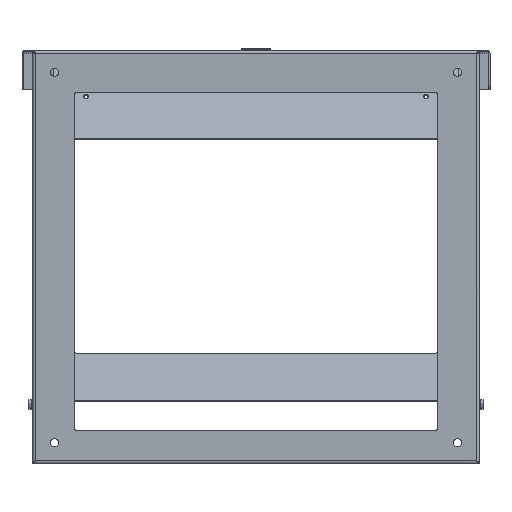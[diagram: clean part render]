
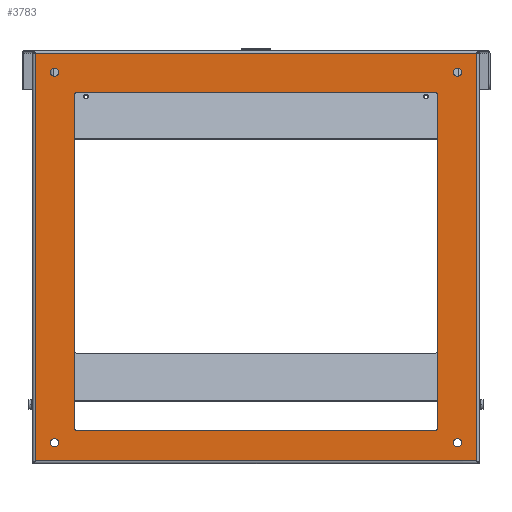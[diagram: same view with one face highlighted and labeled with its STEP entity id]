
A CAD part, front view. The second image highlights one B-rep face of the part: STEP entity #3783.
In plain terms, the highlighted planar face has unit normal (0, -1, 0).
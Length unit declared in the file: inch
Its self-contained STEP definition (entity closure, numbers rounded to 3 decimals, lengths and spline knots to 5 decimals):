
#120=DIRECTION('',(1.,0.,0.));
#121=VECTOR('',#120,16.9635);
#122=CARTESIAN_POINT('',(-8.48175,-0.85938,-7.84113));
#123=LINE('',#122,#121);
#127=CARTESIAN_POINT('',(8.48175,-0.85938,-7.84113));
#668=DIRECTION('',(-1.,0.,0.));
#669=VECTOR('',#668,13.8125);
#670=CARTESIAN_POINT('',(6.90625,-0.85938,6.32813));
#671=LINE('',#670,#669);
#675=DIRECTION('',(0.,0.,-1.));
#676=VECTOR('',#675,12.875);
#677=CARTESIAN_POINT('',(-6.96875,-0.85938,6.26563));
#678=LINE('',#677,#676);
#682=DIRECTION('',(1.,0.,0.));
#683=VECTOR('',#682,13.8125);
#684=CARTESIAN_POINT('',(-6.90625,-0.85938,-6.67188));
#685=LINE('',#684,#683);
#689=DIRECTION('',(0.,0.,1.));
#690=VECTOR('',#689,12.875);
#691=CARTESIAN_POINT('',(6.96875,-0.85938,-6.60938));
#692=LINE('',#691,#690);
#696=CARTESIAN_POINT('',(7.75,-0.85938,-7.14063));
#697=DIRECTION('',(0.,1.,0.));
#698=DIRECTION('',(1.,0.,0.));
#699=AXIS2_PLACEMENT_3D('',#696,#697,#698);
#704=CARTESIAN_POINT('',(7.75,-0.85938,-7.14063));
#705=DIRECTION('',(0.,1.,0.));
#706=DIRECTION('',(-1.,0.,0.));
#707=AXIS2_PLACEMENT_3D('',#704,#705,#706);
#712=CARTESIAN_POINT('',(-7.75,-0.85938,-7.14063));
#713=DIRECTION('',(0.,1.,0.));
#714=DIRECTION('',(1.,0.,0.));
#715=AXIS2_PLACEMENT_3D('',#712,#713,#714);
#720=CARTESIAN_POINT('',(-7.75,-0.85938,-7.14063));
#721=DIRECTION('',(0.,1.,0.));
#722=DIRECTION('',(-1.,0.,0.));
#723=AXIS2_PLACEMENT_3D('',#720,#721,#722);
#728=CARTESIAN_POINT('',(-7.75,-0.85938,7.10938));
#729=DIRECTION('',(0.,1.,0.));
#730=DIRECTION('',(1.,0.,0.));
#731=AXIS2_PLACEMENT_3D('',#728,#729,#730);
#736=CARTESIAN_POINT('',(-7.75,-0.85938,7.10938));
#737=DIRECTION('',(0.,1.,0.));
#738=DIRECTION('',(-1.,0.,0.));
#739=AXIS2_PLACEMENT_3D('',#736,#737,#738);
#744=CARTESIAN_POINT('',(7.75,-0.85938,7.10938));
#745=DIRECTION('',(0.,1.,0.));
#746=DIRECTION('',(1.,0.,0.));
#747=AXIS2_PLACEMENT_3D('',#744,#745,#746);
#752=CARTESIAN_POINT('',(7.75,-0.85938,7.10938));
#753=DIRECTION('',(0.,1.,0.));
#754=DIRECTION('',(-1.,0.,0.));
#755=AXIS2_PLACEMENT_3D('',#752,#753,#754);
#774=CARTESIAN_POINT('',(6.90625,-0.85938,6.26563));
#775=DIRECTION('',(0.,1.,0.));
#776=DIRECTION('',(0.,0.,1.));
#777=AXIS2_PLACEMENT_3D('',#774,#775,#776);
#804=CARTESIAN_POINT('',(6.90625,-0.85938,-6.60938));
#805=DIRECTION('',(0.,1.,0.));
#806=DIRECTION('',(1.,0.,0.));
#807=AXIS2_PLACEMENT_3D('',#804,#805,#806);
#834=CARTESIAN_POINT('',(-6.90625,-0.85938,-6.60938));
#835=DIRECTION('',(0.,1.,0.));
#836=DIRECTION('',(0.,0.,-1.));
#837=AXIS2_PLACEMENT_3D('',#834,#835,#836);
#850=CARTESIAN_POINT('',(-6.90625,-0.85938,6.26563));
#851=DIRECTION('',(0.,1.,0.));
#852=DIRECTION('',(-1.,0.,0.));
#853=AXIS2_PLACEMENT_3D('',#850,#851,#852);
#970=DIRECTION('',(0.,0.,1.));
#971=VECTOR('',#970,15.68225);
#972=CARTESIAN_POINT('',(-8.48175,-0.85938,-7.84113));
#973=LINE('',#972,#971);
#1175=DIRECTION('',(1.,0.,0.));
#1176=VECTOR('',#1175,16.9635);
#1177=CARTESIAN_POINT('',(-8.48175,-0.85938,7.84113));
#1178=LINE('',#1177,#1176);
#1182=CARTESIAN_POINT('',(-8.48175,-0.85938,7.84113));
#2103=DIRECTION('',(0.,0.,1.));
#2104=VECTOR('',#2103,15.68225);
#2105=CARTESIAN_POINT('',(8.48175,-0.85938,-7.84113));
#2106=LINE('',#2105,#2104);
#2704=VERTEX_POINT('',#1182);
#2710=CARTESIAN_POINT('',(8.48175,-0.85938,7.84113));
#2711=VERTEX_POINT('',#2710);
#2718=VERTEX_POINT('',#127);
#2724=CARTESIAN_POINT('',(-8.48175,-0.85938,-7.84113));
#2725=VERTEX_POINT('',#2724);
#2728=CARTESIAN_POINT('',(7.90625,-0.85938,-7.14063));
#2729=CARTESIAN_POINT('',(7.59375,-0.85938,-7.14063));
#2730=VERTEX_POINT('',#2728);
#2731=VERTEX_POINT('',#2729);
#2732=CARTESIAN_POINT('',(-7.59375,-0.85938,-7.14063));
#2733=CARTESIAN_POINT('',(-7.90625,-0.85938,-7.14063));
#2734=VERTEX_POINT('',#2732);
#2735=VERTEX_POINT('',#2733);
#2736=CARTESIAN_POINT('',(-7.59375,-0.85938,7.10938));
#2737=CARTESIAN_POINT('',(-7.90625,-0.85938,7.10938));
#2738=VERTEX_POINT('',#2736);
#2739=VERTEX_POINT('',#2737);
#2740=CARTESIAN_POINT('',(7.90625,-0.85938,7.10938));
#2741=CARTESIAN_POINT('',(7.59375,-0.85938,7.10938));
#2742=VERTEX_POINT('',#2740);
#2743=VERTEX_POINT('',#2741);
#2760=CARTESIAN_POINT('',(6.90625,-0.85938,6.32813));
#2761=CARTESIAN_POINT('',(-6.90625,-0.85938,6.32813));
#2762=VERTEX_POINT('',#2760);
#2763=VERTEX_POINT('',#2761);
#2764=CARTESIAN_POINT('',(-6.96875,-0.85938,6.26563));
#2765=CARTESIAN_POINT('',(-6.96875,-0.85938,-6.60938));
#2766=VERTEX_POINT('',#2764);
#2767=VERTEX_POINT('',#2765);
#2768=CARTESIAN_POINT('',(-6.90625,-0.85938,-6.67188));
#2769=CARTESIAN_POINT('',(6.90625,-0.85938,-6.67188));
#2770=VERTEX_POINT('',#2768);
#2771=VERTEX_POINT('',#2769);
#2772=CARTESIAN_POINT('',(6.96875,-0.85938,-6.60938));
#2773=CARTESIAN_POINT('',(6.96875,-0.85938,6.26563));
#2774=VERTEX_POINT('',#2772);
#2775=VERTEX_POINT('',#2773);
#3728=CARTESIAN_POINT('',(-8.59375,-0.85938,-7.95313));
#3729=DIRECTION('',(0.,-1.,0.));
#3730=DIRECTION('',(1.,0.,0.));
#3731=AXIS2_PLACEMENT_3D('',#3728,#3729,#3730);
#3732=PLANE('',#3731);
#3733=ORIENTED_EDGE('',*,*,#3216,.F.);
#3735=ORIENTED_EDGE('',*,*,#3734,.T.);
#3737=ORIENTED_EDGE('',*,*,#3736,.T.);
#3739=ORIENTED_EDGE('',*,*,#3738,.F.);
#3740=EDGE_LOOP('',(#3733,#3735,#3737,#3739));
#3741=FACE_OUTER_BOUND('',#3740,.F.);
#3743=ORIENTED_EDGE('',*,*,#3742,.F.);
#3745=ORIENTED_EDGE('',*,*,#3744,.F.);
#3746=EDGE_LOOP('',(#3743,#3745));
#3747=FACE_BOUND('',#3746,.F.);
#3749=ORIENTED_EDGE('',*,*,#3748,.F.);
#3751=ORIENTED_EDGE('',*,*,#3750,.F.);
#3752=EDGE_LOOP('',(#3749,#3751));
#3753=FACE_BOUND('',#3752,.F.);
#3755=ORIENTED_EDGE('',*,*,#3754,.F.);
#3757=ORIENTED_EDGE('',*,*,#3756,.F.);
#3758=EDGE_LOOP('',(#3755,#3757));
#3759=FACE_BOUND('',#3758,.F.);
#3761=ORIENTED_EDGE('',*,*,#3760,.F.);
#3763=ORIENTED_EDGE('',*,*,#3762,.F.);
#3764=EDGE_LOOP('',(#3761,#3763));
#3765=FACE_BOUND('',#3764,.F.);
#3767=ORIENTED_EDGE('',*,*,#3766,.T.);
#3769=ORIENTED_EDGE('',*,*,#3768,.F.);
#3770=ORIENTED_EDGE('',*,*,#3718,.T.);
#3772=ORIENTED_EDGE('',*,*,#3771,.F.);
#3774=ORIENTED_EDGE('',*,*,#3773,.T.);
#3776=ORIENTED_EDGE('',*,*,#3775,.F.);
#3778=ORIENTED_EDGE('',*,*,#3777,.T.);
#3780=ORIENTED_EDGE('',*,*,#3779,.F.);
#3781=EDGE_LOOP('',(#3767,#3769,#3770,#3772,#3774,#3776,#3778,#3780));
#3782=FACE_BOUND('',#3781,.F.);
#700=CIRCLE('',#699,0.15625);
#708=CIRCLE('',#707,0.15625);
#716=CIRCLE('',#715,0.15625);
#724=CIRCLE('',#723,0.15625);
#732=CIRCLE('',#731,0.15625);
#740=CIRCLE('',#739,0.15625);
#748=CIRCLE('',#747,0.15625);
#756=CIRCLE('',#755,0.15625);
#778=CIRCLE('',#777,0.0625);
#808=CIRCLE('',#807,0.0625);
#838=CIRCLE('',#837,0.0625);
#854=CIRCLE('',#853,0.0625);
#3216=EDGE_CURVE('',#2725,#2718,#123,.T.);
#3718=EDGE_CURVE('',#2766,#2767,#678,.T.);
#3734=EDGE_CURVE('',#2725,#2704,#973,.T.);
#3736=EDGE_CURVE('',#2704,#2711,#1178,.T.);
#3738=EDGE_CURVE('',#2718,#2711,#2106,.T.);
#3742=EDGE_CURVE('',#2730,#2731,#700,.T.);
#3744=EDGE_CURVE('',#2731,#2730,#708,.T.);
#3748=EDGE_CURVE('',#2734,#2735,#716,.T.);
#3750=EDGE_CURVE('',#2735,#2734,#724,.T.);
#3754=EDGE_CURVE('',#2738,#2739,#732,.T.);
#3756=EDGE_CURVE('',#2739,#2738,#740,.T.);
#3760=EDGE_CURVE('',#2742,#2743,#748,.T.);
#3762=EDGE_CURVE('',#2743,#2742,#756,.T.);
#3766=EDGE_CURVE('',#2762,#2763,#671,.T.);
#3768=EDGE_CURVE('',#2766,#2763,#854,.T.);
#3771=EDGE_CURVE('',#2770,#2767,#838,.T.);
#3773=EDGE_CURVE('',#2770,#2771,#685,.T.);
#3775=EDGE_CURVE('',#2774,#2771,#808,.T.);
#3777=EDGE_CURVE('',#2774,#2775,#692,.T.);
#3779=EDGE_CURVE('',#2762,#2775,#778,.T.);
#3783=ADVANCED_FACE('',(#3741,#3747,#3753,#3759,#3765,#3782),#3732,.T.);
